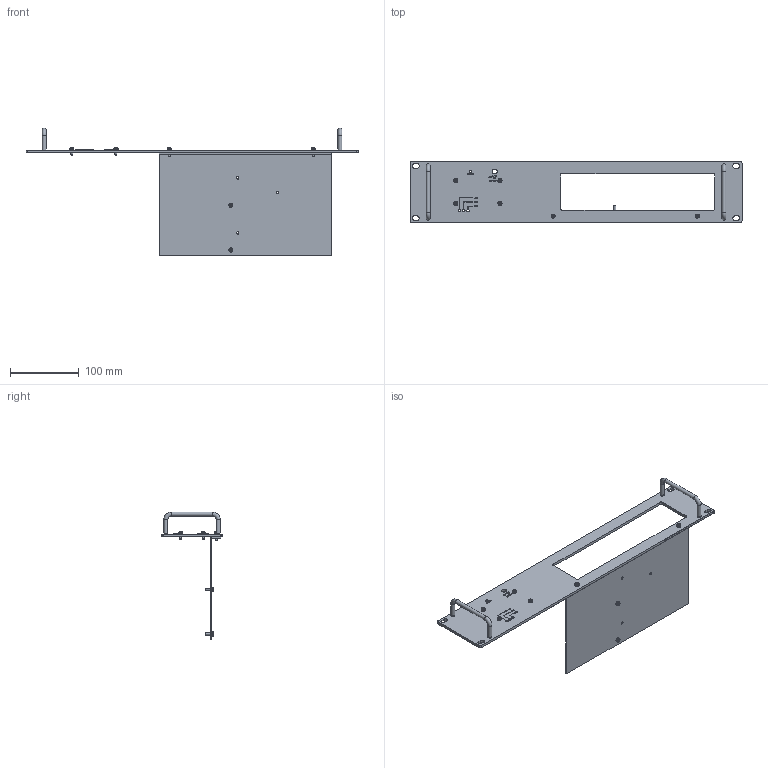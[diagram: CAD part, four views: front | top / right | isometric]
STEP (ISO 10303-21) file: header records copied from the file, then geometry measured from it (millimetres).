
FILE_DESCRIPTION(/* description */ (''),/* implementation_level */ '2;1');
FILE_NAME(/* name */ 'A:\Data\ES300\Option\RA19 1ES300-PSC ETH\step file\RA19-1 ES-PSC-ETH.stp',/* time_stamp */ '2020-12-22T09:27:09+01:00',/* author */ ('Delta'),/* organization */ (''),/* preprocessor_version */ 'ST-DEVELOPER v17.2',/* originating_system */ 'Autodesk Inventor 2019',/* authorisation */ '');
FILE_SCHEMA (('AUTOMOTIVE_DESIGN { 1 0 10303 214 3 1 1 }'));
Length unit declared in the file: millimetre
Products named in the file (1): _Assembly RA19-1 ES-PSC-ETH_Shrinkwrap_1
Bounding box: 482.5 x 88.1 x 186 mm (x, y, z)
Volume: 206639.9 mm3; surface area: 156499.4 mm2
Topology: 1 solids, 1 shells, 795 faces, 2014 edges, 1289 vertices
Faces by surface type: plane 536, cylinder 109, cone 60, bspline 60, torus 30
Full cylindrical faces by diameter (mm): 3 x8, 3.2 x6, 3.5 x13, 4 x8, 4.2 x4, 4.5 x4, 6 x22, 7 x1
Entity records: 24867 total; most frequent: CARTESIAN_POINT 5555, ORIENTED_EDGE 4004, DIRECTION 3556, EDGE_CURVE 2002, VERTEX_POINT 1289, LINE 1222, VECTOR 1222, AXIS2_PLACEMENT_3D 1167
